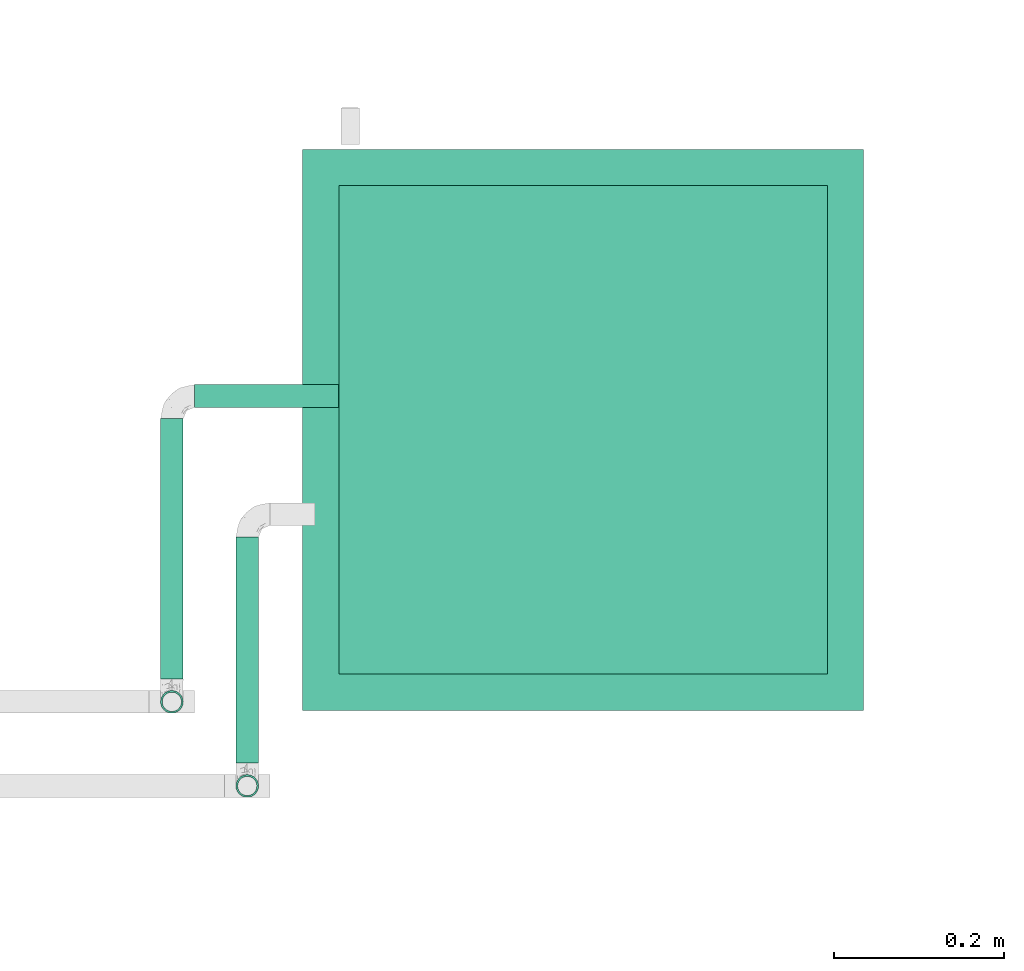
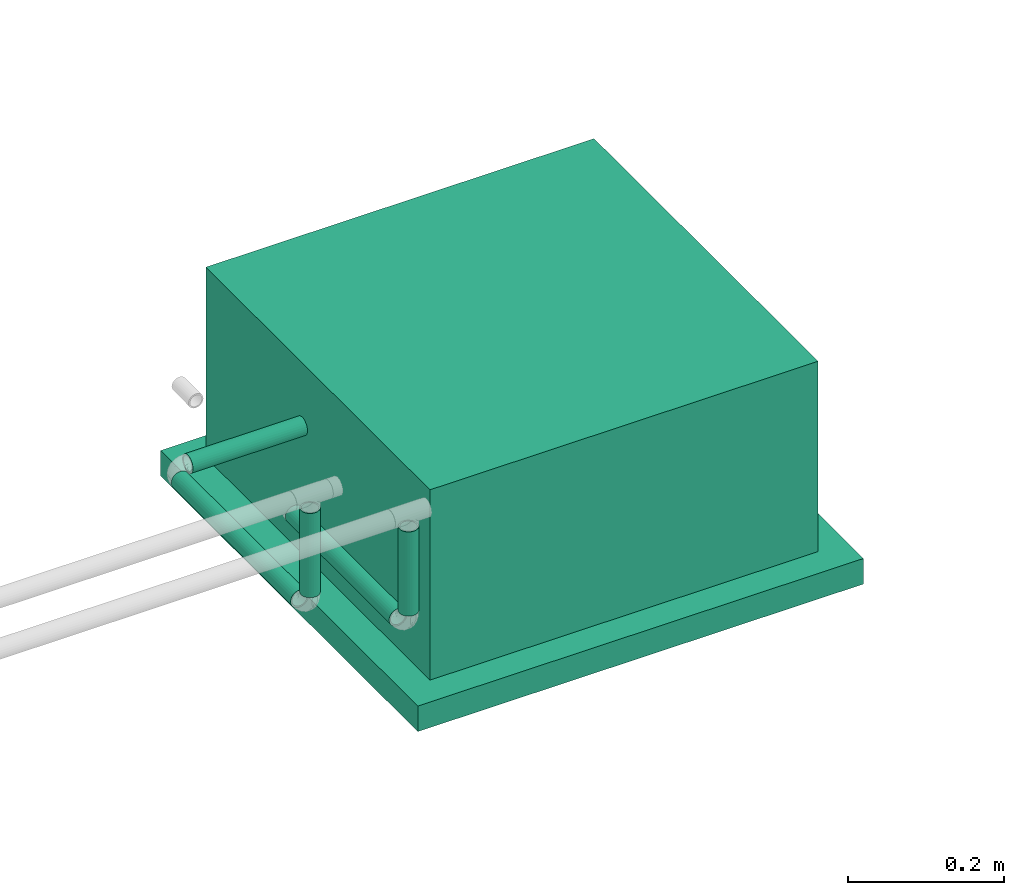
# One storey, part 12 of 35: 5 flow segments, 1 energy conversion device.
"""IFC2X3 building model written with IfcOpenShell, lengths in millimetres."""

import ifcopenshell
import ifcopenshell.guid

model = None  # the IFC model being written
_history = None  # IfcOwnerHistory: only IFC2X3 demands one
_inside = {}  # id of a spatial element -> (the spatial element, [elements in it])
_under = {}  # id of a project, library or spatial element -> (it, [spatial elements below it])
_declared = {}  # id of a project -> (the project, [libraries it declares])
_typed = {}  # id of a type object -> (the type object, [elements of that type])
_made_of = {}  # id of a material, layer set ... -> (it, [elements and type objects made of it])


def new_model(schema):
    """Start an empty IFC model of exactly this schema.

    Asked for "IFC4X3", IfcOpenShell would pick the latest addendum, in which some entities
    have other attributes; the version numbers below select the first issue.
    IFC2X3 requires an IfcOwnerHistory on every rooted entity: one is made here for all.
    """
    global model, _history
    if schema == "IFC4X3":
        model = ifcopenshell.file(schema_version=(4, 3, 0, 0))
    else:
        model = ifcopenshell.file(schema=schema)
    _inside.clear()
    _under.clear()
    _declared.clear()
    _typed.clear()
    _made_of.clear()
    _history = None
    if model.schema == "IFC2X3":
        org = make("IfcOrganization", Name="unknown")
        user = make(
            "IfcPersonAndOrganization",
            ThePerson=make("IfcPerson", FamilyName="unknown"),
            TheOrganization=org,
        )
        app = make(
            "IfcApplication",
            ApplicationDeveloper=org,
            Version="unknown",
            ApplicationFullName="unknown",
            ApplicationIdentifier="unknown",
        )
        _history = make(
            "IfcOwnerHistory",
            OwningUser=user,
            OwningApplication=app,
            ChangeAction="ADDED",
            CreationDate=0,
        )
    return model


def make(cls, **values):
    """One entity of the class cls with the attributes given. An attribute that is None is left unset."""
    return model.create_entity(
        cls, **{name: value for name, value in values.items() if value is not None}
    )


def entity(cls, *values):
    """Any entity or typed value of the class cls, its attributes in the order of the schema. None: left unset."""
    e = model.create_entity(cls)
    for i, value in enumerate(values):
        if value is not None:
            e[i] = value
    return e


def rooted(cls, **values):
    """An entity with a GlobalId (a new one), such as an element, a storey or a relation."""
    return make(cls, GlobalId=ifcopenshell.guid.new(), OwnerHistory=_history, **values)


def si_unit(unit_type, name, prefix=None):
    """IfcSIUnit, for example si_unit("LENGTHUNIT", "METRE", prefix="MILLI")."""
    return make("IfcSIUnit", UnitType=unit_type, Prefix=prefix, Name=name)


def converted_unit(unit_type, name, factor, base, dimensions=None, offset=None):
    """IfcConversionBasedUnit, such as the inch: factor (a typed value) times the base unit."""
    return make(
        "IfcConversionBasedUnit"
        if offset is None
        else "IfcConversionBasedUnitWithOffset",
        ConversionOffset=offset,
        Dimensions=None
        if dimensions is None
        else entity("IfcDimensionalExponents", *dimensions),
        UnitType=unit_type,
        Name=name,
        ConversionFactor=make(
            "IfcMeasureWithUnit", ValueComponent=factor, UnitComponent=base
        ),
    )


def derived_unit(unit_type, elements):
    """IfcDerivedUnit: a product of units, each with its exponent."""
    return make(
        "IfcDerivedUnit",
        Elements=[
            make("IfcDerivedUnitElement", Unit=unit, Exponent=power)
            for unit, power in elements
        ],
        UnitType=unit_type,
    )


def assignment(units):
    """IfcUnitAssignment: the units of a project."""
    return None if units is None else make("IfcUnitAssignment", Units=units)


def point(xyz):
    """IfcCartesianPoint."""
    return None if xyz is None else make("IfcCartesianPoint", Coordinates=xyz)


def direction(xyz):
    """IfcDirection."""
    return None if xyz is None else make("IfcDirection", DirectionRatios=xyz)


def frame(location, z_axis=None, x_axis=None):
    """IfcAxis2Placement3D, a coordinate frame: its origin and axes. An axis left out is left unset."""
    return make(
        "IfcAxis2Placement3D",
        Location=point(location),
        Axis=direction(z_axis),
        RefDirection=direction(x_axis),
    )


def frame_2d(location, x_axis=None):
    """IfcAxis2Placement2D, a coordinate frame in the plane: its origin and x axis."""
    return make(
        "IfcAxis2Placement2D", Location=point(location), RefDirection=direction(x_axis)
    )


def origin_with_axes():
    """The frame at (0, 0, 0) with the z axis (0, 0, 1) and the x axis (1, 0, 0) written out."""
    return frame((0.0, 0.0, 0.0), z_axis=(0.0, 0.0, 1.0), x_axis=(1.0, 0.0, 0.0))


def origin_2d_with_axis():
    """The frame at (0, 0) in the plane with the x axis (1, 0) written out."""
    return frame_2d((0.0, 0.0), x_axis=(1.0, 0.0))


def place(relative_to, where):
    """IfcLocalPlacement: puts the frame where relative to a parent placement (None: the world)."""
    return make(
        "IfcLocalPlacement", PlacementRelTo=relative_to, RelativePlacement=where
    )


def context(
    kind, dimensions, precision=None, world=None, true_north=None, identifier=None
):
    """IfcGeometricRepresentationContext, for example the 3D "Model" context."""
    return make(
        "IfcGeometricRepresentationContext",
        ContextIdentifier=identifier,
        ContextType=kind,
        CoordinateSpaceDimension=dimensions,
        Precision=precision,
        WorldCoordinateSystem=world,
        TrueNorth=true_north,
    )


def subcontext(parent, identifier, kind, view, scale=None):
    """IfcGeometricRepresentationSubContext, for example "Body" below "Model"."""
    return make(
        "IfcGeometricRepresentationSubContext",
        ContextIdentifier=identifier,
        ContextType=kind,
        ParentContext=parent,
        TargetScale=scale,
        TargetView=view,
    )


def project(units=None, contexts=None):
    """IfcProject with its units and contexts."""
    return rooted(
        "IfcProject",
        Name="project",
        RepresentationContexts=contexts,
        UnitsInContext=assignment(units),
    )


def spatial(cls, under=None, at=None, **own):
    """A site, building, storey or space (cls), placed at a placement, below another one or the project."""
    s = rooted(cls, ObjectPlacement=at, **own)
    if under is not None:
        _under.setdefault(under.id(), (under, []))[1].append(s)
    return s


def profile(cls, at=None, kind="AREA", **sizes):
    """A parametric profile (cls). Its sizes go by their IFC names, for example OverallWidth=200.0."""
    return make(cls, ProfileType=kind, Position=at, **sizes)


def hollow_circle(**sizes):
    """IfcCircleHollowProfileDef."""
    return profile("IfcCircleHollowProfileDef", **sizes)


def extrude(swept, where, along, depth):
    """IfcExtrudedAreaSolid: the profile swept, set in the frame where, extruded along a direction by depth."""
    return make(
        "IfcExtrudedAreaSolid",
        SweptArea=swept,
        Position=where,
        ExtrudedDirection=direction(along),
        Depth=depth,
    )


def faces_of(points, faces, orient=None, outer=None):
    """IfcFace entities. A face is a list of loops; a loop is a list of indices into points, from 0.

    orient and outer hold one flag for each loop. By default every Orientation is true, the
    first loop of a face is its IfcFaceOuterBound and the others are IfcFaceBound.
    """
    made = []
    for i, loops in enumerate(faces):
        bounds = []
        for j, loop in enumerate(loops):
            is_outer = j == 0 if outer is None else outer[i][j]
            bounds.append(
                make(
                    "IfcFaceOuterBound" if is_outer else "IfcFaceBound",
                    Bound=make("IfcPolyLoop", Polygon=[points[k] for k in loop]),
                    Orientation=True if orient is None else orient[i][j],
                )
            )
        made.append(make("IfcFace", Bounds=bounds))
    return made


def open_shell(faces, orient=None, outer=None):
    """The faces of one IfcOpenShell. surface_model builds it on its shared points."""
    return ("IfcOpenShell", faces, orient, outer)


def surface_model(cls, points, shells):
    """IfcFaceBasedSurfaceModel or IfcShellBasedSurfaceModel (cls): surfaces that need not close."""
    shared = [point(p) for p in points]
    made = [make(c, CfsFaces=faces_of(shared, fs, o, b)) for c, fs, o, b in shells]
    if cls == "IfcFaceBasedSurfaceModel":
        return make(cls, FbsmFaces=made)
    return make(cls, SbsmBoundary=made)


def shape(context_of_items, identifier, shape_type, items):
    """IfcShapeRepresentation: the items that make up one representation, for example the "Body"."""
    return make(
        "IfcShapeRepresentation",
        ContextOfItems=context_of_items,
        RepresentationIdentifier=identifier,
        RepresentationType=shape_type,
        Items=items,
    )


def source(mapping_origin, context_of_items, identifier, shape_type, items):
    """IfcRepresentationMap: a shape defined once, which mapped items show again and again."""
    return make(
        "IfcRepresentationMap",
        MappingOrigin=mapping_origin,
        MappedRepresentation=shape(context_of_items, identifier, shape_type, items),
    )


def transform(
    local_origin,
    x_axis=None,
    y_axis=None,
    z_axis=None,
    scale=None,
    scale2=None,
    scale3=None,
    uniform=True,
):
    """IfcCartesianTransformationOperator3D, or its non-uniform kind. x_axis, y_axis, z_axis: its Axis1, 2, 3."""
    if uniform:
        return make(
            "IfcCartesianTransformationOperator3D",
            Axis1=direction(x_axis),
            Axis2=direction(y_axis),
            LocalOrigin=point(local_origin),
            Scale=scale,
            Axis3=direction(z_axis),
        )
    return make(
        "IfcCartesianTransformationOperator3DnonUniform",
        Axis1=direction(x_axis),
        Axis2=direction(y_axis),
        LocalOrigin=point(local_origin),
        Scale=scale,
        Axis3=direction(z_axis),
        Scale2=scale2,
        Scale3=scale3,
    )


def mapped(mapping_source, mapping_target):
    """IfcMappedItem: shows the shape of a source again, moved by a transform."""
    return make(
        "IfcMappedItem", MappingSource=mapping_source, MappingTarget=mapping_target
    )


def made_of(thing, what):
    """Note that an element or type object is made of a material, layer set ...; save() writes the relation."""
    if what is not None:
        _made_of.setdefault(what.id(), (what, []))[1].append(thing)
    return thing


def type_object(cls, material=None, **own):
    """A type object (cls), such as IfcWallType, which elements share."""
    return made_of(rooted(cls, **own), material)


def element(
    cls,
    number,
    at=None,
    inside=None,
    cuts=None,
    type_object=None,
    material=None,
    context=None,
    identifier="Body",
    shape_type=None,
    held_by="IfcProductDefinitionShape",
    body=None,
    shapes=None,
    **own,
):
    """One element of the class cls, such as IfcWall. Its Tag is "e" and its number.

    at: its placement. inside: the storey or other place that contains it. cuts: it is an
    opening in that element (IfcRelVoidsElement). A single representation is given by context,
    identifier, shape_type and body (its items); several are given by shapes. held_by: the class
    of the entity that holds the representations. save() writes the other relations.
    """
    e = rooted(cls, Tag="e%d" % number, ObjectPlacement=at, **own)
    if body is not None:
        shapes = [shape(context, identifier, shape_type, body)]
    if shapes is not None:
        e.Representation = make(held_by, Representations=shapes)
    if inside is not None:
        _inside.setdefault(inside.id(), (inside, []))[1].append(e)
    if cuts is not None:
        rooted(
            "IfcRelVoidsElement", RelatingBuildingElement=cuts, RelatedOpeningElement=e
        )
    if type_object is not None:
        _typed.setdefault(type_object.id(), (type_object, []))[1].append(e)
    return made_of(e, material)


def aggregate(whole, parts):
    """IfcRelAggregates: a whole, such as a stair, and the parts it consists of."""
    return rooted("IfcRelAggregates", RelatingObject=whole, RelatedObjects=parts)


def save(model, path):
    """Write the relations noted so far, then the file.

    IfcRelAggregates (storeys below a building ...), IfcRelContainedInSpatialStructure (elements
    in a storey), IfcRelDefinesByType, IfcRelAssociatesMaterial and IfcRelDeclares: one each for
    every whole, place, type object, material and project.
    """
    for whole, parts in _under.values():
        aggregate(whole, parts)
    for where, things in _inside.values():
        rooted(
            "IfcRelContainedInSpatialStructure",
            RelatedElements=things,
            RelatingStructure=where,
        )
    for kind, things in _typed.values():
        rooted("IfcRelDefinesByType", RelatedObjects=things, RelatingType=kind)
    for what, things in _made_of.values():
        rooted("IfcRelAssociatesMaterial", RelatedObjects=things, RelatingMaterial=what)
    for by, libraries in _declared.values():
        rooted("IfcRelDeclares", RelatingContext=by, RelatedDefinitions=libraries)
    model.write(path)


model = new_model("IFC2X3")

# Units and contexts
model_context = context("Model", 3, precision=0.01, world=frame((0.0, 4.29681676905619e-09, 0.0)), true_north=direction((4.01073788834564e-13, 1.0)))
plan_context = context("Plan", 3, precision=0.01, world=frame((0.0, 4.29681676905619e-09, 0.0)), true_north=direction((4.01073788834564e-13, 1.0)))
body_context = subcontext(model_context, "Body", "Model", "MODEL_VIEW")
ifc_project = project(units=[converted_unit("PLANEANGLEUNIT", "DEGREE", entity("IfcPositiveLengthMeasure", 0.0174532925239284), si_unit("PLANEANGLEUNIT", "RADIAN"), dimensions=[0, 0, 0, 0, 0, 0, 0]), si_unit("AREAUNIT", "SQUARE_METRE"), si_unit("LENGTHUNIT", "METRE", prefix="MILLI"), si_unit("MASSUNIT", "GRAM", prefix="KILO"), si_unit("POWERUNIT", "WATT"), si_unit("PRESSUREUNIT", "PASCAL"), si_unit("FORCEUNIT", "NEWTON", prefix="KILO"), si_unit("ELECTRICVOLTAGEUNIT", "VOLT"), si_unit("ELECTRICCURRENTUNIT", "AMPERE"), si_unit("THERMODYNAMICTEMPERATUREUNIT", "DEGREE_CELSIUS"), si_unit("TIMEUNIT", "SECOND"), si_unit("VOLUMEUNIT", "CUBIC_METRE"), derived_unit("LINEARVELOCITYUNIT", [(si_unit("LENGTHUNIT", "METRE"), 1), (si_unit("TIMEUNIT", "SECOND"), -1)]), derived_unit("VOLUMETRICFLOWRATEUNIT", [(si_unit("VOLUMEUNIT", "CUBIC_METRE"), 1), (si_unit("TIMEUNIT", "SECOND"), -1)]), derived_unit("THERMALTRANSMITTANCEUNIT", [(si_unit("POWERUNIT", "WATT"), 1), (si_unit("THERMODYNAMICTEMPERATUREUNIT", "KELVIN"), -1), (si_unit("AREAUNIT", "SQUARE_METRE"), -1)]), derived_unit("SOUNDPRESSUREUNIT", [(si_unit("PRESSUREUNIT", "PASCAL"), 1)])], contexts=[model_context, plan_context])

# Site, building, storey
site_placement = place(None, frame((0.0, -4.29681676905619e-09, 0.0), z_axis=(0.0, 0.0, 1.0), x_axis=(1.0, 0.0, 0.0)))
site = spatial("IfcSite", under=ifc_project, at=site_placement, Name="ENGM", CompositionType="ELEMENT")
building_placement = place(site_placement, frame((0.0, 4.29681676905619e-09, 0.0), z_axis=(0.0, 0.0, 1.0), x_axis=(1.0, 0.0, 0.0)))
building = spatial("IfcBuilding", under=site, at=building_placement, Name="TH", CompositionType="ELEMENT")
storey_placement = place(building_placement, frame((0.0, 0.0, 210200.0), z_axis=(0.0, 0.0, 1.0), x_axis=(1.0, 0.0, 0.0)))
storey = spatial("IfcBuildingStorey", under=building, at=storey_placement, Name="Nivå F - 0,7 m", CompositionType="ELEMENT", Elevation=210200.0)

# Energy conversion device
coil_type = type_object("IfcCoilType", Name="GCS2.UWW.K01", PredefinedType="WATERHEATINGCOIL")
shared_shape_1 = source(origin_with_axes(), body_context, "Body", "SurfaceModel", [
    surface_model("IfcShellBasedSurfaceModel", [(-329.99999, 329.99999, 0.0), (-329.99999, -329.99999, 0.0), (329.99999, -329.99999, 0.0), (329.99999, 329.99999, 0.0), (329.99999, 329.99999, -40.0), (329.99999, -329.99999, -40.0), (-329.99999, -329.99999, -40.0), (-329.99999, 329.99999, -40.0), (-287.5, 287.5, 25.0), (-287.5, -287.5, 25.0), (287.5, -287.5, 25.0), (287.5, 287.5, 25.0), (287.5, 287.5, 0.0), (287.5, -287.5, 0.0), (-287.5, -287.5, 0.0), (-287.5, 287.5, 0.0), (-287.5, 287.5, 298.0), (-287.5, -287.5, 298.0), (287.5, -287.5, 298.0), (287.5, 287.5, 298.0)], [open_shell([[[0, 1, 2]], [[2, 3, 0]], [[4, 5, 6]], [[6, 7, 4]], [[2, 1, 6]], [[6, 5, 2]], [[3, 2, 5]], [[5, 4, 3]], [[0, 3, 4]], [[4, 7, 0]], [[1, 0, 7]], [[7, 6, 1]], [[8, 9, 10]], [[10, 11, 8]], [[12, 13, 14]], [[14, 15, 12]], [[10, 9, 14]], [[14, 13, 10]], [[11, 10, 13]], [[13, 12, 11]], [[8, 11, 12]], [[12, 15, 8]], [[9, 8, 15]], [[15, 14, 9]], [[16, 17, 18]], [[18, 19, 16]], [[11, 10, 9]], [[9, 8, 11]], [[18, 17, 10]], [[9, 10, 17]], [[19, 18, 11]], [[10, 11, 18]], [[16, 19, 8]], [[11, 8, 19]], [[17, 16, 9]], [[8, 9, 16]]])]),
])
energy_conversion_device_placement = place(storey_placement, frame((905510.0, 481615.40642, 2600.0), z_axis=(0.0, 0.0, 1.0), x_axis=(0.0, -1.0, 0.0)))
element("IfcEnergyConversionDevice", 1, at=energy_conversion_device_placement, inside=storey, type_object=coil_type, Name="GCS2.UWW.K01", context=body_context, shape_type="MappedRepresentation", body=[
    mapped(shared_shape_1, transform((0.0, 0.0, 0.0), scale=1.0)),
])

# Flow segments
pipe_segment_type = type_object("IfcPipeSegmentType", Name="Stålrør normaltykke", PredefinedType="RIGIDSEGMENT")
shared_shape_2 = source(origin_with_axes(), body_context, "Body", "SweptSolid", [
    extrude(hollow_circle(Radius=13.3, WallThickness=2.0, at=origin_2d_with_axis()), frame((0.0, 0.0, 0.0), z_axis=(1.0, 0.0, 0.0), x_axis=(0.0, 1.0, 0.0)), (0.0, 0.0, 1.0), 306.4),
])
flow_segment_1_placement = place(storey_placement, frame((905026.07965, 481322.16097, 2800.0), z_axis=(0.0, 0.0, 1.0), x_axis=(0.0, 1.0, 0.0)))
element("IfcFlowSegment", 2, at=flow_segment_1_placement, inside=storey, type_object=pipe_segment_type, Name="Stålrør normaltykke", context=body_context, shape_type="MappedRepresentation", body=[
    mapped(shared_shape_2, transform((0.0, 0.0, 0.0), scale=1.0)),
])
shared_shape_3 = source(origin_with_axes(), body_context, "Body", "SweptSolid", [
    extrude(hollow_circle(Radius=13.3, WallThickness=2.0, at=origin_2d_with_axis()), frame((0.0, 0.0, 0.0), z_axis=(1.0, 0.0, 0.0), x_axis=(0.0, 1.0, 0.0)), (0.0, 0.0, 1.0), 169.6),
])
flow_segment_2_placement = place(storey_placement, frame((905052.87965, 481655.36097, 2800.0), z_axis=(0.0, 0.0, 1.0), x_axis=(1.0, 0.0, 0.0)))
element("IfcFlowSegment", 3, at=flow_segment_2_placement, inside=storey, type_object=pipe_segment_type, Name="Stålrør normaltykke", context=body_context, shape_type="MappedRepresentation", body=[
    mapped(shared_shape_3, transform((0.0, 0.0, 0.0), scale=1.0)),
])
shared_shape_4 = source(origin_with_axes(), body_context, "Body", "SweptSolid", [
    extrude(hollow_circle(Radius=13.3, WallThickness=2.0, at=origin_2d_with_axis()), frame((0.0, 0.0, 0.0), z_axis=(1.0, 0.0, 0.0), x_axis=(0.0, 1.0, 0.0)), (0.0, 0.0, 1.0), 266.4),
])
flow_segment_3_placement = place(storey_placement, frame((905114.78846, 481223.17011, 2800.0), z_axis=(0.0, 0.0, 1.0), x_axis=(0.0, 1.0, 0.0)))
element("IfcFlowSegment", 4, at=flow_segment_3_placement, inside=storey, type_object=pipe_segment_type, Name="Stålrør normaltykke", context=body_context, shape_type="MappedRepresentation", body=[
    mapped(shared_shape_4, transform((0.0, 0.0, 0.0), scale=1.0)),
])
shared_shape_5 = source(origin_with_axes(), body_context, "Body", "SweptSolid", [
    extrude(hollow_circle(Radius=13.3, WallThickness=2.0, at=origin_2d_with_axis()), frame((0.0, 0.0, 0.0), z_axis=(1.0, 0.0, 0.0), x_axis=(0.0, 1.0, 0.0)), (0.0, 0.0, 1.0), 131.9),
])
for number, where, z_axis, x_axis in (
    (5, (905026.07965, 481295.36097, 2958.70000000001), (0.0, 1.0, 0.0), (0.0, 0.0, -1.0)),
    (6, (905114.78846, 481196.37011, 2958.70000000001), (0.0, 1.0, 0.0), (0.0, 0.0, -1.0)),
):
    element("IfcFlowSegment", number, at=place(storey_placement, frame(where, z_axis=z_axis, x_axis=x_axis)), inside=storey, type_object=pipe_segment_type, Name="Stålrør normaltykke", context=body_context, shape_type="MappedRepresentation", body=[
        mapped(shared_shape_5, transform((0.0, 0.0, 0.0), scale=1.0)),
    ])

save(model, "model.ifc")
